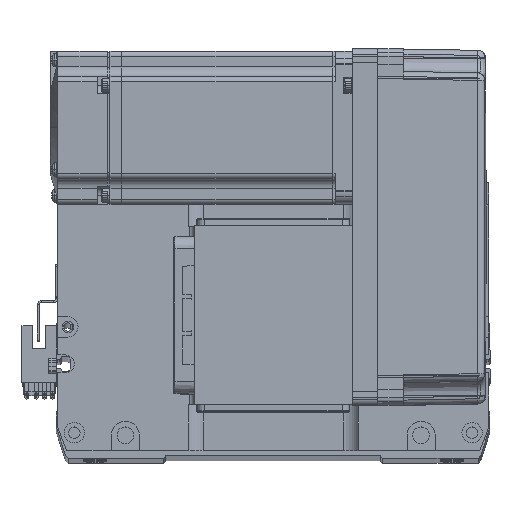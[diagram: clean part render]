
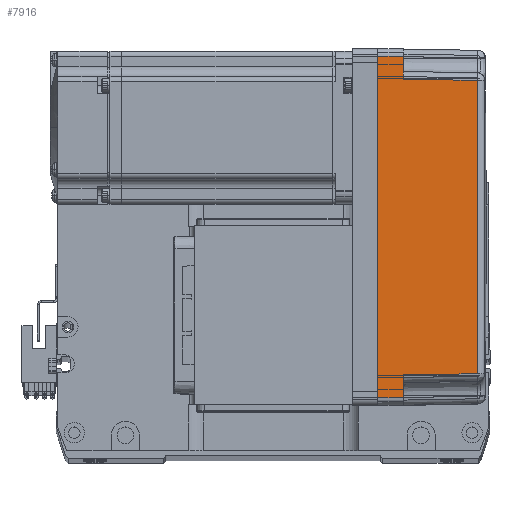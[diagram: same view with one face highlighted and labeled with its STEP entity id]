
A CAD part, top view. The second image highlights one B-rep face of the part: STEP entity #7916.
In plain terms, the highlighted planar face has unit normal (0.018, 0, 1) as drawn and (0, -1, 0.017) by its records, which use the part's own axes.
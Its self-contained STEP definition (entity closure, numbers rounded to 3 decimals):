
#2391 = VERTEX_POINT ( 'NONE', #55394 ) ;
#2459 = LINE ( 'NONE', #6305, #9364 ) ;
#3427 = VECTOR ( 'NONE', #58599, 1000. ) ;
#4098 = VERTEX_POINT ( 'NONE', #34890 ) ;
#5944 = ORIENTED_EDGE ( 'NONE', *, *, #33965, .T. ) ;
#6305 = CARTESIAN_POINT ( 'NONE',  ( -57.495, -35.32, 38.985 ) ) ;
#7916 = ADVANCED_FACE ( 'NONE', ( #24667 ), #30857, .T. ) ;
#8207 = LINE ( 'NONE', #28437, #11230 ) ;
#8412 = DIRECTION ( 'NONE',  ( -1., 0., 0. ) ) ;
#9364 = VECTOR ( 'NONE', #16217, 1000. ) ;
#10676 = CARTESIAN_POINT ( 'NONE',  ( -66.826, -35.825, 10. ) ) ;
#11124 = LINE ( 'NONE', #14217, #3427 ) ;
#11198 = CARTESIAN_POINT ( 'NONE',  ( 67., -36., 0. ) ) ;
#11230 = VECTOR ( 'NONE', #8412, 1000. ) ;
#13182 = ORIENTED_EDGE ( 'NONE', *, *, #53211, .T. ) ;
#14217 = CARTESIAN_POINT ( 'NONE',  ( 0., -36., 0. ) ) ;
#14539 = VERTEX_POINT ( 'NONE', #11198 ) ;
#16217 = DIRECTION ( 'NONE',  ( -0.017, -0.017, -1. ) ) ;
#17754 = EDGE_CURVE ( 'NONE', #4098, #58438, #2459, .T. ) ;
#19335 = CARTESIAN_POINT ( 'NONE',  ( -58., -35.825, 10. ) ) ;
#19733 = CARTESIAN_POINT ( 'NONE',  ( -67., -36., 0. ) ) ;
#20525 = CARTESIAN_POINT ( 'NONE',  ( 19.165, -35.316, 39.181 ) ) ;
#20934 = CARTESIAN_POINT ( 'NONE',  ( 57.495, -35.32, 38.985 ) ) ;
#21539 = CARTESIAN_POINT ( 'NONE',  ( 67., -36., 0. ) ) ;
#23375 = VECTOR ( 'NONE', #54573, 1000. ) ;
#23622 = LINE ( 'NONE', #33805, #43642 ) ;
#24449 = CARTESIAN_POINT ( 'NONE',  ( 58., -35.825, 10. ) ) ;
#24667 = FACE_OUTER_BOUND ( 'NONE', #50389, .T. ) ;
#25752 = ORIENTED_EDGE ( 'NONE', *, *, #32833, .T. ) ;
#26075 = CARTESIAN_POINT ( 'NONE',  ( -19.165, -35.316, 39.181 ) ) ;
#26211 = B_SPLINE_CURVE_WITH_KNOTS ( 'NONE', 3,
 ( #20934, #20525, #26075, #40971 ),
 .UNSPECIFIED., .F., .F.,
 ( 4, 4 ),
 ( 0., 1. ),
 .UNSPECIFIED. ) ;
#28437 = CARTESIAN_POINT ( 'NONE',  ( 70., -35.825, 10. ) ) ;
#29131 = VERTEX_POINT ( 'NONE', #45669 ) ;
#30166 = ORIENTED_EDGE ( 'NONE', *, *, #63777, .T. ) ;
#30857 = PLANE ( 'NONE',  #62506 ) ;
#32753 = VERTEX_POINT ( 'NONE', #10676 ) ;
#32833 = EDGE_CURVE ( 'NONE', #58438, #32753, #53222, .T. ) ;
#33805 = CARTESIAN_POINT ( 'NONE',  ( -66.959, -35.958, 2.39 ) ) ;
#33965 = EDGE_CURVE ( 'NONE', #14539, #55640, #37655, .T. ) ;
#34890 = CARTESIAN_POINT ( 'NONE',  ( -57.495, -35.32, 38.985 ) ) ;
#35689 = CARTESIAN_POINT ( 'NONE',  ( 70., -35.825, 10. ) ) ;
#35818 = CARTESIAN_POINT ( 'NONE',  ( 70., -36., 0. ) ) ;
#36440 = DIRECTION ( 'NONE',  ( 0., -0.017, -1. ) ) ;
#37369 = VERTEX_POINT ( 'NONE', #19733 ) ;
#37655 = LINE ( 'NONE', #21539, #39213 ) ;
#39213 = VECTOR ( 'NONE', #56000, 1000. ) ;
#40971 = CARTESIAN_POINT ( 'NONE',  ( -57.495, -35.32, 38.985 ) ) ;
#41136 = LINE ( 'NONE', #24449, #23375 ) ;
#41592 = ORIENTED_EDGE ( 'NONE', *, *, #62205, .F. ) ;
#42627 = ORIENTED_EDGE ( 'NONE', *, *, #62056, .T. ) ;
#43642 = VECTOR ( 'NONE', #53847, 1000. ) ;
#45144 = DIRECTION ( 'NONE',  ( -1., 0., 0. ) ) ;
#45669 = CARTESIAN_POINT ( 'NONE',  ( 58., -35.825, 10. ) ) ;
#47024 = VECTOR ( 'NONE', #45144, 1000. ) ;
#50389 = EDGE_LOOP ( 'NONE', ( #5944, #42627, #13182, #30166, #55912, #25752, #41592, #56176 ) ) ;
#53211 = EDGE_CURVE ( 'NONE', #29131, #2391, #41136, .T. ) ;
#53222 = LINE ( 'NONE', #35689, #47024 ) ;
#53847 = DIRECTION ( 'NONE',  ( 0.017, 0.017, 1. ) ) ;
#54573 = DIRECTION ( 'NONE',  ( -0.017, 0.017, 1. ) ) ;
#54956 = EDGE_CURVE ( 'NONE', #14539, #37369, #11124, .T. ) ;
#55394 = CARTESIAN_POINT ( 'NONE',  ( 57.495, -35.32, 38.985 ) ) ;
#55640 = VERTEX_POINT ( 'NONE', #57436 ) ;
#55912 = ORIENTED_EDGE ( 'NONE', *, *, #17754, .T. ) ;
#56000 = DIRECTION ( 'NONE',  ( -0.017, 0.017, 1. ) ) ;
#56176 = ORIENTED_EDGE ( 'NONE', *, *, #54956, .F. ) ;
#57436 = CARTESIAN_POINT ( 'NONE',  ( 66.826, -35.825, 10. ) ) ;
#58438 = VERTEX_POINT ( 'NONE', #19335 ) ;
#58599 = DIRECTION ( 'NONE',  ( -1., 0., 0. ) ) ;
#61229 = DIRECTION ( 'NONE',  ( 0., -1., 0.017 ) ) ;
#62056 = EDGE_CURVE ( 'NONE', #55640, #29131, #8207, .T. ) ;
#62205 = EDGE_CURVE ( 'NONE', #37369, #32753, #23622, .T. ) ;
#62506 = AXIS2_PLACEMENT_3D ( 'NONE', #35818, #61229, #36440 ) ;
#63777 = EDGE_CURVE ( 'NONE', #2391, #4098, #26211, .T. ) ;
